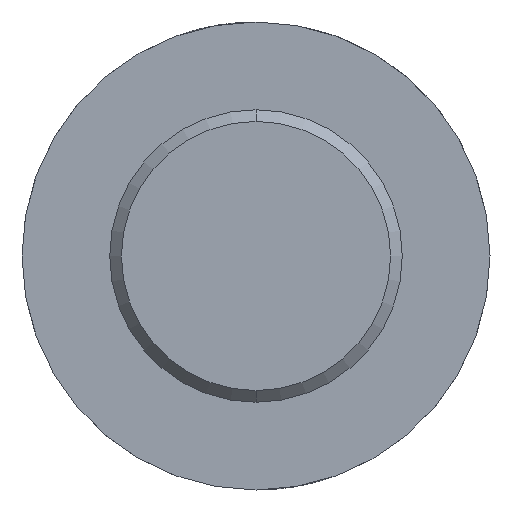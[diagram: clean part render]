
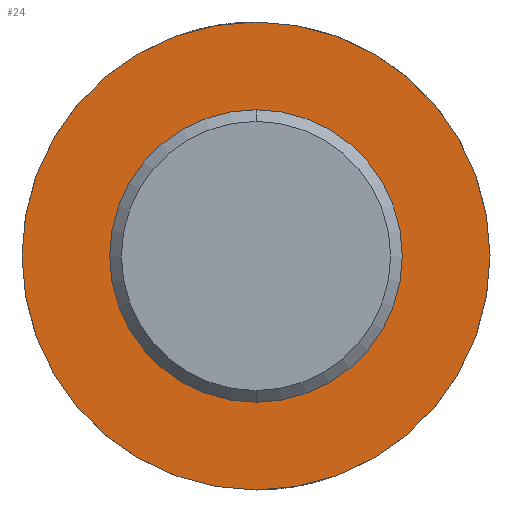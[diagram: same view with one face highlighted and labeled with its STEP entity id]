
A CAD part, front view. The second image highlights one B-rep face of the part: STEP entity #24.
In plain terms, the highlighted planar face has unit normal (0, -1, 0).
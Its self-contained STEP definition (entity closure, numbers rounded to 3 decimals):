
#13 = DIRECTION ( 'NONE',  ( 0., 0., -1. ) ) ;
#18 = DIRECTION ( 'NONE',  ( 0., -1., 0. ) ) ;
#22 = CARTESIAN_POINT ( 'NONE',  ( 0., 0., 0. ) ) ;
#24 = ADVANCED_FACE ( 'NONE', ( #636, #178 ), #136, .T. ) ;
#27 = AXIS2_PLACEMENT_3D ( 'NONE', #22, #18, #13 ) ;
#35 = AXIS2_PLACEMENT_3D ( 'NONE', #103, #98, #96 ) ;
#44 = CARTESIAN_POINT ( 'NONE',  ( 0., 0., 4. ) ) ;
#60 = CIRCLE ( 'NONE', #35, 2.5 ) ;
#96 = DIRECTION ( 'NONE',  ( 0., 0., -1. ) ) ;
#98 = DIRECTION ( 'NONE',  ( 0., -1., 0. ) ) ;
#103 = CARTESIAN_POINT ( 'NONE',  ( 0., 0., 0. ) ) ;
#114 = VERTEX_POINT ( 'NONE', #592 ) ;
#134 = EDGE_LOOP ( 'NONE', ( #375, #303 ) ) ;
#135 = EDGE_LOOP ( 'NONE', ( #297, #337 ) ) ;
#136 = PLANE ( 'NONE',  #350 ) ;
#170 = CARTESIAN_POINT ( 'NONE',  ( 0., 0., 0. ) ) ;
#178 = FACE_BOUND ( 'NONE', #134, .T. ) ;
#186 = DIRECTION ( 'NONE',  ( 0., 0., -1. ) ) ;
#206 = CARTESIAN_POINT ( 'NONE',  ( -4., 0., 0. ) ) ;
#209 = AXIS2_PLACEMENT_3D ( 'NONE', #410, #408, #407 ) ;
#269 = EDGE_CURVE ( 'NONE', #114, #536, #360, .T. ) ;
#287 = DIRECTION ( 'NONE',  ( 0., -1., 0. ) ) ;
#297 = ORIENTED_EDGE ( 'NONE', *, *, #566, .F. ) ;
#303 = ORIENTED_EDGE ( 'NONE', *, *, #509, .F. ) ;
#315 = CIRCLE ( 'NONE', #27, 2.5 ) ;
#337 = ORIENTED_EDGE ( 'NONE', *, *, #269, .F. ) ;
#350 = AXIS2_PLACEMENT_3D ( 'NONE', #206, #287, #186 ) ;
#351 = CARTESIAN_POINT ( 'NONE',  ( 0., 0., -2.5 ) ) ;
#360 = CIRCLE ( 'NONE', #209, 4. ) ;
#368 = VERTEX_POINT ( 'NONE', #351 ) ;
#375 = ORIENTED_EDGE ( 'NONE', *, *, #547, .F. ) ;
#407 = DIRECTION ( 'NONE',  ( 0., 0., 1. ) ) ;
#408 = DIRECTION ( 'NONE',  ( 0., 1., 0. ) ) ;
#410 = CARTESIAN_POINT ( 'NONE',  ( 0., 0., 0. ) ) ;
#453 = AXIS2_PLACEMENT_3D ( 'NONE', #170, #558, #584 ) ;
#477 = CIRCLE ( 'NONE', #453, 4. ) ;
#509 = EDGE_CURVE ( 'NONE', #368, #599, #60, .T. ) ;
#515 = CARTESIAN_POINT ( 'NONE',  ( 0., 0., 2.5 ) ) ;
#536 = VERTEX_POINT ( 'NONE', #44 ) ;
#547 = EDGE_CURVE ( 'NONE', #599, #368, #315, .T. ) ;
#558 = DIRECTION ( 'NONE',  ( 0., 1., 0. ) ) ;
#566 = EDGE_CURVE ( 'NONE', #536, #114, #477, .T. ) ;
#584 = DIRECTION ( 'NONE',  ( 0., 0., 1. ) ) ;
#592 = CARTESIAN_POINT ( 'NONE',  ( 0., 0., -4. ) ) ;
#599 = VERTEX_POINT ( 'NONE', #515 ) ;
#636 = FACE_OUTER_BOUND ( 'NONE', #135, .T. ) ;
